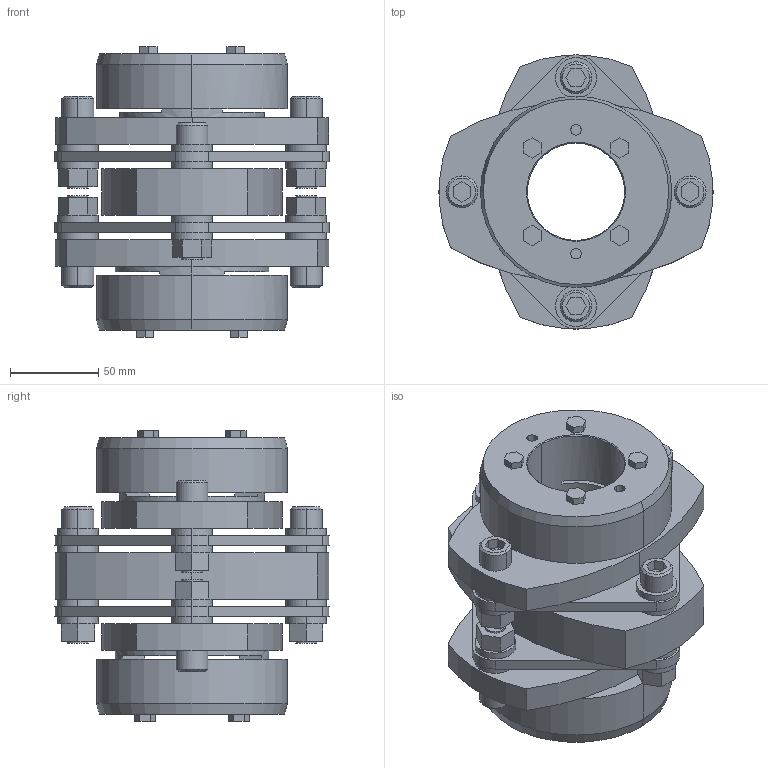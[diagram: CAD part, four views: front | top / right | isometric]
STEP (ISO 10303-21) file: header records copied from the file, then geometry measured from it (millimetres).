
FILE_DESCRIPTION((''),'2;1');
FILE_NAME('LCD-155T7-55×60.stp','2011-09-08T15:02:05',(''),(''),'AutoCAD STEP 2000i','AutoCAD 2000i',', , ');
FILE_SCHEMA(('CONFIG_CONTROL_DESIGN'));
Length unit declared in the file: millimetre
Products named in the file (10): LCD-155T7-55×60; 忣兜1; LC155T7-T060; LC155T7-T055-1; LC155T7-T055; LC155T7-T050-1; LC155T7-T050; LC155T7-T045-1; LC155T7-T045; LCD155-ITA
Assembly tree (9 placements, depth 2):
  LCD-155T7-55×60
    忣兜1
    LC155T7-T060
    LC155T7-T055-1
    LC155T7-T055
    LC155T7-T050-1
    LC155T7-T050
    LC155T7-T045-1
    LC155T7-T045
    LCD155-ITA
Bounding box: 155 x 154.9 x 164 mm (x, y, z)
Volume: 1202392.4 mm3; surface area: 213771.2 mm2
Topology: 1 solids, 1 shells, 334 faces, 818 edges, 538 vertices
Faces by surface type: plane 190, cylinder 120, cone 24
Entity records: 10141 total; most frequent: DIRECTION 1788, CARTESIAN_POINT 1700, ORIENTED_EDGE 1636, EDGE_CURVE 818, AXIS2_PLACEMENT_3D 626, VERTEX_POINT 538, VECTOR 536, LINE 536
